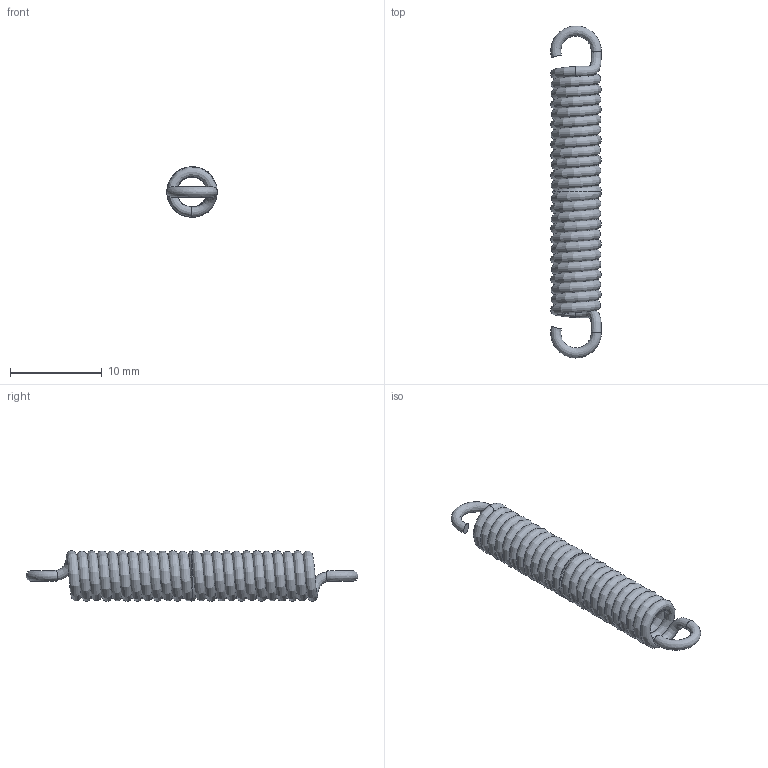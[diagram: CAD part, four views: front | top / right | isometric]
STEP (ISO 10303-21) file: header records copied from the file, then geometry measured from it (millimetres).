
FILE_DESCRIPTION(/* description */ ('60.6 | 5,83 | 0'),/* implementation_level */ '2;1');
FILE_NAME(/* name */ 'T20990.step',/* time_stamp */ '2026-10-05T10:12:37+02:00',/* author */ ('impex-ready.pl'),/* organization */ ('T20990'),/* preprocessor_version */ 'ST-DEVELOPER v20.1',/* originating_system */ 'Autodesk Inventor 2026',/* authorisation */ 'stal nierdzewna');
FILE_SCHEMA (('AUTOMOTIVE_DESIGN { 1 0 10303 214 3 1 1 }'));
Length unit declared in the file: millimetre
Products named in the file (1): T20990
Bounding box: 5.49 x 36.09 x 5.5 mm (x, y, z)
Volume: 335.8 mm3; surface area: 1226.9 mm2
Topology: 1 solids, 1 shells, 10 faces, 32 edges, 20 vertices
Faces by surface type: bspline 6, plane 4
Entity records: 4881 total; most frequent: CARTESIAN_POINT 4593, ORIENTED_EDGE 64, DIRECTION 34, EDGE_CURVE 32, B_SPLINE_CURVE_WITH_KNOTS 20, VERTEX_POINT 20, AXIS2_PLACEMENT_3D 17, CIRCLE 12
